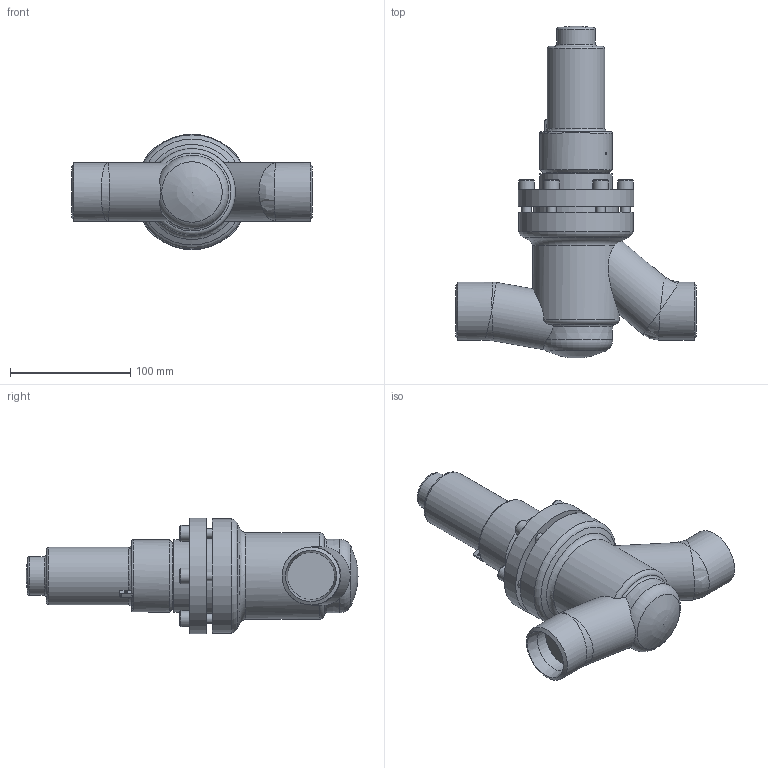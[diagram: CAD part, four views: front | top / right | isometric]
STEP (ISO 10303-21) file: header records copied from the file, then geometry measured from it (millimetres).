
FILE_DESCRIPTION((''),'2;1');
FILE_NAME('Y:\Home\AWP_CAD (2D+3D-Ansicht)\CAD Drawings\3D_STEP\AVR D AE\AVR D AE 26G00-040 PS25.stp','2012-08-27T09:50:25',('Lempe.Ha'),(''),'Autodesk Inventor 2012','Autodesk Inventor 2012','');
FILE_SCHEMA(('AUTOMOTIVE_DESIGN { 1 0 10303 214 1 1 1 1 }'));
Length unit declared in the file: millimetre
Products named in the file (5): 26G00C14A5A30000; 16G00E14.5034004; 16402.15.3180003; DIN 912 - ersetzt durch DIN EN ISO 4762 M8 x 25; 26300E15.5141004
Assembly tree (9 placements, depth 2):
  26G00C14A5A30000
    16G00E14.5034004
    16402.15.3180003
    DIN 912 - ersetzt durch DIN EN ISO 4762 M8 x 25  x6
    26300E15.5141004
Bounding box: 200 x 276 x 96 mm (x, y, z)
Volume: 705628.4 mm3; surface area: 174736.2 mm2
Topology: 9 solids, 9 shells, 241 faces, 534 edges, 319 vertices
Faces by surface type: plane 86, cylinder 69, cone 42, torus 30, bspline 14
Full cylindrical faces by diameter (mm): 2 x1, 3 x1, 6.647 x6, 8 x6, 9 x6, 13 x6, 18.376 x1, 20.5 x2, 22 x1, 27 x1, 29.835 x1, 30 x1, 32 x1, 34 x1, 38 x2, 39 x2, 44 x1, 48 x2, 48.3 x4, 48.752 x1, 49.5 x1, 51 x1, 51.1 x1, 52 x1, 52.5 x2, 53 x1, 55 x1, 60 x2, 62 x3, 64 x1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
Entity records: 4527 total; most frequent: CARTESIAN_POINT 1249, DIRECTION 714, ORIENTED_EDGE 454, AXIS2_PLACEMENT_3D 344, EDGE_LOOP 309, EDGE_CURVE 227, VERTEX_POINT 185, CIRCLE 170
